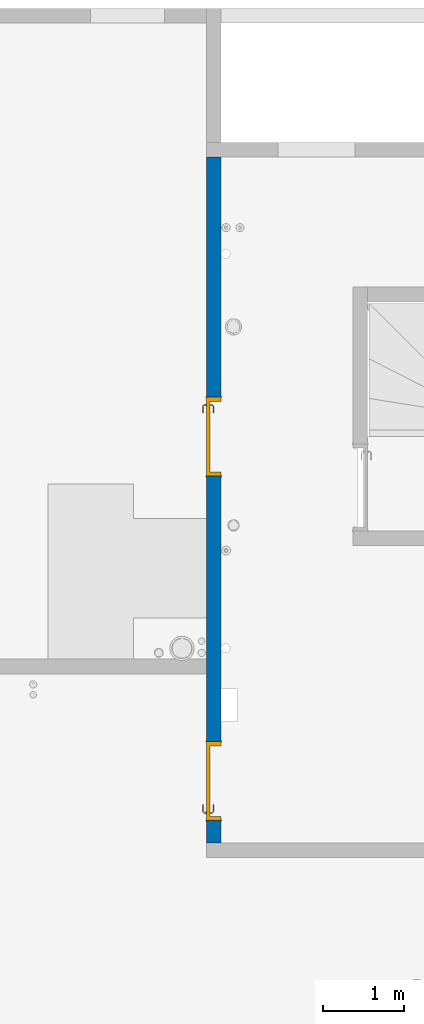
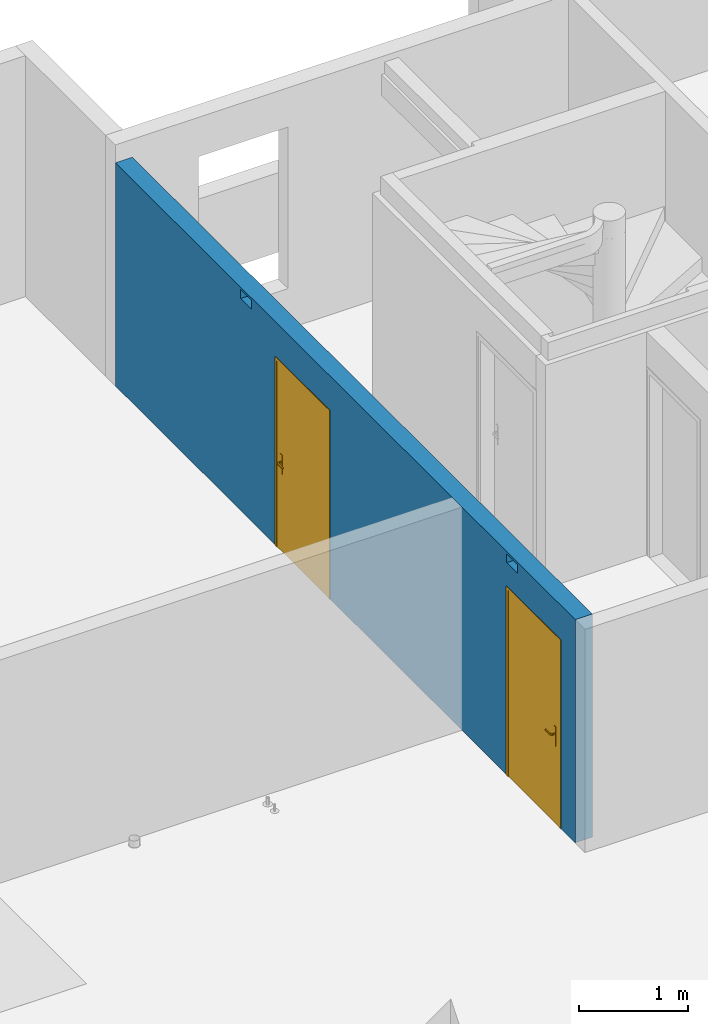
# One storey, part 12 of 24: 2 doors, 1 wall, 4 openings.
"""IFC2X3 building model written with IfcOpenShell, lengths in centimetres."""

import ifcopenshell
import ifcopenshell.guid

model = None  # the IFC model being written
_history = None  # IfcOwnerHistory: only IFC2X3 demands one
_inside = {}  # id of a spatial element -> (the spatial element, [elements in it])
_under = {}  # id of a project, library or spatial element -> (it, [spatial elements below it])
_declared = {}  # id of a project -> (the project, [libraries it declares])
_typed = {}  # id of a type object -> (the type object, [elements of that type])
_made_of = {}  # id of a material, layer set ... -> (it, [elements and type objects made of it])


def new_model(schema):
    """Start an empty IFC model of exactly this schema.

    Asked for "IFC4X3", IfcOpenShell would pick the latest addendum, in which some entities
    have other attributes; the version numbers below select the first issue.
    IFC2X3 requires an IfcOwnerHistory on every rooted entity: one is made here for all.
    """
    global model, _history
    if schema == "IFC4X3":
        model = ifcopenshell.file(schema_version=(4, 3, 0, 0))
    else:
        model = ifcopenshell.file(schema=schema)
    _inside.clear()
    _under.clear()
    _declared.clear()
    _typed.clear()
    _made_of.clear()
    _history = None
    if model.schema == "IFC2X3":
        org = make("IfcOrganization", Name="unknown")
        user = make(
            "IfcPersonAndOrganization",
            ThePerson=make("IfcPerson", FamilyName="unknown"),
            TheOrganization=org,
        )
        app = make(
            "IfcApplication",
            ApplicationDeveloper=org,
            Version="unknown",
            ApplicationFullName="unknown",
            ApplicationIdentifier="unknown",
        )
        _history = make(
            "IfcOwnerHistory",
            OwningUser=user,
            OwningApplication=app,
            ChangeAction="ADDED",
            CreationDate=0,
        )
    return model


def make(cls, **values):
    """One entity of the class cls with the attributes given. An attribute that is None is left unset."""
    return model.create_entity(
        cls, **{name: value for name, value in values.items() if value is not None}
    )


def entity(cls, *values):
    """Any entity or typed value of the class cls, its attributes in the order of the schema. None: left unset."""
    e = model.create_entity(cls)
    for i, value in enumerate(values):
        if value is not None:
            e[i] = value
    return e


def rooted(cls, **values):
    """An entity with a GlobalId (a new one), such as an element, a storey or a relation."""
    return make(cls, GlobalId=ifcopenshell.guid.new(), OwnerHistory=_history, **values)


def si_unit(unit_type, name, prefix=None):
    """IfcSIUnit, for example si_unit("LENGTHUNIT", "METRE", prefix="MILLI")."""
    return make("IfcSIUnit", UnitType=unit_type, Prefix=prefix, Name=name)


def converted_unit(unit_type, name, factor, base, dimensions=None, offset=None):
    """IfcConversionBasedUnit, such as the inch: factor (a typed value) times the base unit."""
    return make(
        "IfcConversionBasedUnit"
        if offset is None
        else "IfcConversionBasedUnitWithOffset",
        ConversionOffset=offset,
        Dimensions=None
        if dimensions is None
        else entity("IfcDimensionalExponents", *dimensions),
        UnitType=unit_type,
        Name=name,
        ConversionFactor=make(
            "IfcMeasureWithUnit", ValueComponent=factor, UnitComponent=base
        ),
    )


def derived_unit(unit_type, elements):
    """IfcDerivedUnit: a product of units, each with its exponent."""
    return make(
        "IfcDerivedUnit",
        Elements=[
            make("IfcDerivedUnitElement", Unit=unit, Exponent=power)
            for unit, power in elements
        ],
        UnitType=unit_type,
    )


def assignment(units):
    """IfcUnitAssignment: the units of a project."""
    return None if units is None else make("IfcUnitAssignment", Units=units)


def point(xyz):
    """IfcCartesianPoint."""
    return None if xyz is None else make("IfcCartesianPoint", Coordinates=xyz)


def direction(xyz):
    """IfcDirection."""
    return None if xyz is None else make("IfcDirection", DirectionRatios=xyz)


def frame(location, z_axis=None, x_axis=None):
    """IfcAxis2Placement3D, a coordinate frame: its origin and axes. An axis left out is left unset."""
    return make(
        "IfcAxis2Placement3D",
        Location=point(location),
        Axis=direction(z_axis),
        RefDirection=direction(x_axis),
    )


def frame_2d(location, x_axis=None):
    """IfcAxis2Placement2D, a coordinate frame in the plane: its origin and x axis."""
    return make(
        "IfcAxis2Placement2D", Location=point(location), RefDirection=direction(x_axis)
    )


def origin():
    """The frame at (0, 0, 0) with its axes left unset."""
    return frame((0.0, 0.0, 0.0))


def place(relative_to, where):
    """IfcLocalPlacement: puts the frame where relative to a parent placement (None: the world)."""
    return make(
        "IfcLocalPlacement", PlacementRelTo=relative_to, RelativePlacement=where
    )


def context(
    kind, dimensions, precision=None, world=None, true_north=None, identifier=None
):
    """IfcGeometricRepresentationContext, for example the 3D "Model" context."""
    return make(
        "IfcGeometricRepresentationContext",
        ContextIdentifier=identifier,
        ContextType=kind,
        CoordinateSpaceDimension=dimensions,
        Precision=precision,
        WorldCoordinateSystem=world,
        TrueNorth=true_north,
    )


def subcontext(parent, identifier, kind, view, scale=None):
    """IfcGeometricRepresentationSubContext, for example "Body" below "Model"."""
    return make(
        "IfcGeometricRepresentationSubContext",
        ContextIdentifier=identifier,
        ContextType=kind,
        ParentContext=parent,
        TargetScale=scale,
        TargetView=view,
    )


def project(units=None, contexts=None):
    """IfcProject with its units and contexts."""
    return rooted(
        "IfcProject",
        Name="project",
        RepresentationContexts=contexts,
        UnitsInContext=assignment(units),
    )


def spatial(cls, under=None, at=None, **own):
    """A site, building, storey or space (cls), placed at a placement, below another one or the project."""
    s = rooted(cls, ObjectPlacement=at, **own)
    if under is not None:
        _under.setdefault(under.id(), (under, []))[1].append(s)
    return s


def profile(cls, at=None, kind="AREA", **sizes):
    """A parametric profile (cls). Its sizes go by their IFC names, for example OverallWidth=200.0."""
    return make(cls, ProfileType=kind, Position=at, **sizes)


def rectangle(**sizes):
    """IfcRectangleProfileDef."""
    return profile("IfcRectangleProfileDef", **sizes)


def extrude(swept, where, along, depth):
    """IfcExtrudedAreaSolid: the profile swept, set in the frame where, extruded along a direction by depth."""
    return make(
        "IfcExtrudedAreaSolid",
        SweptArea=swept,
        Position=where,
        ExtrudedDirection=direction(along),
        Depth=depth,
    )


def faces_of(points, faces, orient=None, outer=None):
    """IfcFace entities. A face is a list of loops; a loop is a list of indices into points, from 0.

    orient and outer hold one flag for each loop. By default every Orientation is true, the
    first loop of a face is its IfcFaceOuterBound and the others are IfcFaceBound.
    """
    made = []
    for i, loops in enumerate(faces):
        bounds = []
        for j, loop in enumerate(loops):
            is_outer = j == 0 if outer is None else outer[i][j]
            bounds.append(
                make(
                    "IfcFaceOuterBound" if is_outer else "IfcFaceBound",
                    Bound=make("IfcPolyLoop", Polygon=[points[k] for k in loop]),
                    Orientation=True if orient is None else orient[i][j],
                )
            )
        made.append(make("IfcFace", Bounds=bounds))
    return made


def faceted_brep(points, faces, orient=None, outer=None, voids=None):
    """IfcFacetedBrep: a solid bounded by flat faces; with voids (closed shells), ...WithVoids."""
    shared = [point(p) for p in points]
    hull = make("IfcClosedShell", CfsFaces=faces_of(shared, faces, orient, outer))
    if voids is None:
        return make("IfcFacetedBrep", Outer=hull)
    return make(
        "IfcFacetedBrepWithVoids",
        Outer=hull,
        Voids=[
            make(cls, CfsFaces=faces_of(shared, fs, o, b)) for cls, fs, o, b in voids
        ],
    )


def shape(context_of_items, identifier, shape_type, items):
    """IfcShapeRepresentation: the items that make up one representation, for example the "Body"."""
    return make(
        "IfcShapeRepresentation",
        ContextOfItems=context_of_items,
        RepresentationIdentifier=identifier,
        RepresentationType=shape_type,
        Items=items,
    )


def source(mapping_origin, context_of_items, identifier, shape_type, items):
    """IfcRepresentationMap: a shape defined once, which mapped items show again and again."""
    return make(
        "IfcRepresentationMap",
        MappingOrigin=mapping_origin,
        MappedRepresentation=shape(context_of_items, identifier, shape_type, items),
    )


def transform(
    local_origin,
    x_axis=None,
    y_axis=None,
    z_axis=None,
    scale=None,
    scale2=None,
    scale3=None,
    uniform=True,
):
    """IfcCartesianTransformationOperator3D, or its non-uniform kind. x_axis, y_axis, z_axis: its Axis1, 2, 3."""
    if uniform:
        return make(
            "IfcCartesianTransformationOperator3D",
            Axis1=direction(x_axis),
            Axis2=direction(y_axis),
            LocalOrigin=point(local_origin),
            Scale=scale,
            Axis3=direction(z_axis),
        )
    return make(
        "IfcCartesianTransformationOperator3DnonUniform",
        Axis1=direction(x_axis),
        Axis2=direction(y_axis),
        LocalOrigin=point(local_origin),
        Scale=scale,
        Axis3=direction(z_axis),
        Scale2=scale2,
        Scale3=scale3,
    )


def mapped(mapping_source, mapping_target):
    """IfcMappedItem: shows the shape of a source again, moved by a transform."""
    return make(
        "IfcMappedItem", MappingSource=mapping_source, MappingTarget=mapping_target
    )


def material(Name=None, Category=None):
    """IfcMaterial."""
    return make("IfcMaterial", Name=Name, Category=Category)


def material_list(materials):
    """IfcMaterialList."""
    return make("IfcMaterialList", Materials=materials)


def layer(
    of_material, thickness, ventilated=None, Name=None, Category=None, Priority=None
):
    """IfcMaterialLayer: one layer of a wall or slab, of a material (None: an air gap)."""
    return make(
        "IfcMaterialLayer",
        Material=of_material,
        LayerThickness=thickness,
        IsVentilated=ventilated,
        Name=Name,
        Category=Category,
        Priority=Priority,
    )


def layer_set(layers, Name=None):
    """IfcMaterialLayerSet."""
    return make("IfcMaterialLayerSet", MaterialLayers=layers, LayerSetName=Name)


def layer_usage(for_layer_set, set_direction, sense, offset, extent=None):
    """IfcMaterialLayerSetUsage: how a layer set lies in its element."""
    return make(
        "IfcMaterialLayerSetUsage",
        ForLayerSet=for_layer_set,
        LayerSetDirection=set_direction,
        DirectionSense=sense,
        OffsetFromReferenceLine=offset,
        ReferenceExtent=extent,
    )


def made_of(thing, what):
    """Note that an element or type object is made of a material, layer set ...; save() writes the relation."""
    if what is not None:
        _made_of.setdefault(what.id(), (what, []))[1].append(thing)
    return thing


def type_object(cls, material=None, **own):
    """A type object (cls), such as IfcWallType, which elements share."""
    return made_of(rooted(cls, **own), material)


def type_shapes(of_type, sources):
    """Give a type object the sources (RepresentationMaps) that its elements show as mapped items."""
    of_type.RepresentationMaps = sources


def element(
    cls,
    number,
    at=None,
    inside=None,
    cuts=None,
    type_object=None,
    material=None,
    context=None,
    identifier="Body",
    shape_type=None,
    held_by="IfcProductDefinitionShape",
    body=None,
    shapes=None,
    **own,
):
    """One element of the class cls, such as IfcWall. Its Tag is "e" and its number.

    at: its placement. inside: the storey or other place that contains it. cuts: it is an
    opening in that element (IfcRelVoidsElement). A single representation is given by context,
    identifier, shape_type and body (its items); several are given by shapes. held_by: the class
    of the entity that holds the representations. save() writes the other relations.
    """
    e = rooted(cls, Tag="e%d" % number, ObjectPlacement=at, **own)
    if body is not None:
        shapes = [shape(context, identifier, shape_type, body)]
    if shapes is not None:
        e.Representation = make(held_by, Representations=shapes)
    if inside is not None:
        _inside.setdefault(inside.id(), (inside, []))[1].append(e)
    if cuts is not None:
        rooted(
            "IfcRelVoidsElement", RelatingBuildingElement=cuts, RelatedOpeningElement=e
        )
    if type_object is not None:
        _typed.setdefault(type_object.id(), (type_object, []))[1].append(e)
    return made_of(e, material)


def fill(opening, filler):
    """IfcRelFillsElement: the door or window that sits in an opening."""
    return rooted(
        "IfcRelFillsElement",
        RelatingOpeningElement=opening,
        RelatedBuildingElement=filler,
    )


def aggregate(whole, parts):
    """IfcRelAggregates: a whole, such as a stair, and the parts it consists of."""
    return rooted("IfcRelAggregates", RelatingObject=whole, RelatedObjects=parts)


def save(model, path):
    """Write the relations noted so far, then the file.

    IfcRelAggregates (storeys below a building ...), IfcRelContainedInSpatialStructure (elements
    in a storey), IfcRelDefinesByType, IfcRelAssociatesMaterial and IfcRelDeclares: one each for
    every whole, place, type object, material and project.
    """
    for whole, parts in _under.values():
        aggregate(whole, parts)
    for where, things in _inside.values():
        rooted(
            "IfcRelContainedInSpatialStructure",
            RelatedElements=things,
            RelatingStructure=where,
        )
    for kind, things in _typed.values():
        rooted("IfcRelDefinesByType", RelatedObjects=things, RelatingType=kind)
    for what, things in _made_of.values():
        rooted("IfcRelAssociatesMaterial", RelatedObjects=things, RelatingMaterial=what)
    for by, libraries in _declared.values():
        rooted("IfcRelDeclares", RelatingContext=by, RelatedDefinitions=libraries)
    model.write(path)


model = new_model("IFC2X3")

# Units and contexts
model_context = context("Model", 3, precision=0.001, world=origin(), true_north=direction((6.12303176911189e-17, 1.0)))
body_context = subcontext(model_context, "Body", "Model", "MODEL_VIEW")
ifc_project = project(units=[si_unit("LENGTHUNIT", "METRE", prefix="CENTI"), si_unit("AREAUNIT", "SQUARE_METRE"), si_unit("VOLUMEUNIT", "CUBIC_METRE"), converted_unit("PLANEANGLEUNIT", "DEGREE", entity("IfcRatioMeasure", 0.0174532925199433), si_unit("PLANEANGLEUNIT", "RADIAN"), dimensions=[0, 0, 0, 0, 0, 0, 0]), si_unit("MASSUNIT", "GRAM", prefix="KILO"), derived_unit("MASSDENSITYUNIT", [(si_unit("MASSUNIT", "GRAM", prefix="KILO"), 1), (si_unit("LENGTHUNIT", "METRE"), -3)]), si_unit("TIMEUNIT", "SECOND"), si_unit("FREQUENCYUNIT", "HERTZ"), si_unit("THERMODYNAMICTEMPERATUREUNIT", "DEGREE_CELSIUS"), derived_unit("THERMALTRANSMITTANCEUNIT", [(si_unit("MASSUNIT", "GRAM", prefix="KILO"), 1), (si_unit("THERMODYNAMICTEMPERATUREUNIT", "KELVIN"), -1), (si_unit("TIMEUNIT", "SECOND"), -3)]), derived_unit("VOLUMETRICFLOWRATEUNIT", [(si_unit("LENGTHUNIT", "METRE"), 3), (si_unit("TIMEUNIT", "SECOND"), -1)]), si_unit("ELECTRICCURRENTUNIT", "AMPERE"), si_unit("ELECTRICVOLTAGEUNIT", "VOLT"), si_unit("POWERUNIT", "WATT"), si_unit("FORCEUNIT", "NEWTON"), si_unit("ILLUMINANCEUNIT", "LUX"), si_unit("LUMINOUSFLUXUNIT", "LUMEN"), si_unit("LUMINOUSINTENSITYUNIT", "CANDELA"), derived_unit("USERDEFINED", [(si_unit("MASSUNIT", "GRAM", prefix="KILO"), -1), (si_unit("LENGTHUNIT", "METRE"), -2), (si_unit("TIMEUNIT", "SECOND"), 3), (si_unit("LUMINOUSFLUXUNIT", "LUMEN"), 1)]), derived_unit("LINEARVELOCITYUNIT", [(si_unit("LENGTHUNIT", "METRE"), 1), (si_unit("TIMEUNIT", "SECOND"), -1)]), si_unit("PRESSUREUNIT", "PASCAL"), derived_unit("USERDEFINED", [(si_unit("LENGTHUNIT", "METRE"), -2), (si_unit("MASSUNIT", "GRAM", prefix="KILO"), 1), (si_unit("TIMEUNIT", "SECOND"), -2)])], contexts=[model_context])

# Site, building, storey
site_placement = place(None, origin())
site = spatial("IfcSite", under=ifc_project, at=site_placement, Name="Default", CompositionType="ELEMENT")
building_placement = place(site_placement, origin())
building = spatial("IfcBuilding", under=site, at=building_placement, Name="CAGE 03", CompositionType="ELEMENT")
storey_placement = place(building_placement, frame((0.0, 0.0, 880.0)))
storey = spatial("IfcBuildingStorey", under=building, at=storey_placement, Name="R+3", CompositionType="ELEMENT", Elevation=880.0)

# Wall, openings, doors
ifc_material_1 = material(Name="Béton, C25/30")
ifc_layer = layer(ifc_material_1, 18.0)
ifc_layer_set = layer_set([ifc_layer], Name="Mur de base:Voile BA 18")
ifc_layer_usage = layer_usage(ifc_layer_set, "AXIS2", "POSITIVE", -9.0)
wall_type = type_object("IfcWallType", Name="Mur de base:Voile BA 18", PredefinedType="STANDARD", material=ifc_layer_set)
wall_placement = place(storey_placement, frame((10019.3658201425, 4266.66066607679, 0.0), z_axis=(0.0, 0.0, 1.0), x_axis=(0.0, 1.0, 0.0)))
wall = element("IfcWallStandardCase", 1, at=wall_placement, inside=storey, type_object=wall_type, material=ifc_layer_usage, Name="Mur de base:Voile BA 18", ObjectType="Mur de base:Voile BA 18", context=body_context, shape_type="SweptSolid", body=[
    extrude(rectangle(XDim=844.0, YDim=17.9999999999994, at=frame_2d((422.0, 2.1316282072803e-14), x_axis=(-1.0, 0.0))), origin(), (0.0, 0.0, 1.0), 250.0),
])
opening_1_placement = place(wall_placement, origin())
element("IfcOpeningElement", 2, at=opening_1_placement, cuts=wall, Name="Mur de base:Voile BA 18", ObjectType="Opening", context=body_context, shape_type="SweptSolid", body=[
    extrude(rectangle(XDim=9.99999999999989, YDim=19.9999999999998, at=frame_2d((0.0, 4.33431068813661e-13), x_axis=(1.0, 0.0))), frame((604.0, -9.0, 242.5), z_axis=(0.0, 1.0, 0.0), x_axis=(0.0, 0.0, -1.0)), (0.0, 0.0, 1.0), 17.9999999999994),
])
opening_2_placement = place(wall_placement, origin())
element("IfcOpeningElement", 3, at=opening_2_placement, cuts=wall, Name="Mur de base:Voile BA 18", ObjectType="Opening", context=body_context, shape_type="SweptSolid", body=[
    extrude(rectangle(XDim=9.99999999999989, YDim=19.9999999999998, at=frame_2d((0.0, -4.33431068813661e-13), x_axis=(1.0, 0.0))), frame((116.0, -9.0, 242.5), z_axis=(0.0, 1.0, 0.0), x_axis=(0.0, 0.0, -1.0)), (0.0, 0.0, 1.0), 17.9999999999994),
])
opening_3_placement = place(wall_placement, frame((451.499999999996, -9.0, 0.0)))
opening_3 = element("IfcOpeningElement", 4, at=opening_3_placement, cuts=wall, Name="Int. Simple:HB93:1", ObjectType="Opening", context=body_context, shape_type="SweptSolid", body=[
    extrude(rectangle(XDim=210.000000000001, YDim=96.9999999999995, at=frame_2d((105.000000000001, 48.4999999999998), x_axis=(1.0, 0.0))), frame((0.0, 0.0, 0.0), z_axis=(0.0, 1.0, 0.0), x_axis=(0.0, 0.0, 1.0)), (0.0, 0.0, 1.0), 18.0),
])
opening_4_placement = place(wall_placement, frame((27.4999999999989, -9.0, 0.0)))
opening_4 = element("IfcOpeningElement", 5, at=opening_4_placement, cuts=wall, Name="Int. Simple:HB93:1", ObjectType="Opening", context=body_context, shape_type="SweptSolid", body=[
    extrude(rectangle(XDim=210.000000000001, YDim=96.9999999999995, at=frame_2d((105.000000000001, 48.4999999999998), x_axis=(1.0, 0.0))), frame((0.0, 0.0, 0.0), z_axis=(0.0, 1.0, 0.0), x_axis=(0.0, 0.0, 1.0)), (0.0, 0.0, 1.0), 18.0),
])
ifc_material_2 = material(Name="Finition Peinture - Blanc satiné")
ifc_material_3 = material(Name="Bois - Panneau de porte")
ifc_material_4 = material(Name="Bois - Cadre de porte")
ifc_material_list_1 = material_list([ifc_material_2, ifc_material_3, ifc_material_4])
ifc_material_list_2 = material_list([ifc_material_2, ifc_material_3, ifc_material_4])
door_style_1 = type_object("IfcDoorStyle", Name="HB93", ConstructionType="NOTDEFINED", OperationType="SINGLE_SWING_RIGHT", ParameterTakesPrecedence=False, Sizeable=False, material=ifc_material_list_2)
shared_shape_1 = source(origin(), body_context, "Body", "Brep", [
    faceted_brep([(96.5000000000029, -0.500000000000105, 87.0), (96.5000000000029, -0.500000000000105, 108.0), (95.535276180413, -0.500000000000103, 108.399601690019), (94.5000000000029, -0.500000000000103, 108.535898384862), (93.4647238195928, -0.500000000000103, 108.399601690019), (92.5000000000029, -0.500000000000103, 108.0), (92.5000000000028, -0.500000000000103, 87.0), (93.4647238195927, -0.500000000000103, 86.6003983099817), (94.5000000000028, -0.500000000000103, 86.464101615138), (95.5352761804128, -0.500000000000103, 86.6003983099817), (96.5000000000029, 0.0, 108.0), (96.5000000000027, 0.0, 87.0), (95.5352761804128, 0.0, 86.6003983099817), (94.5000000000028, 0.0, 86.464101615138), (93.4647238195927, 0.0, 86.6003983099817), (92.5000000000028, 0.0, 87.0), (92.5000000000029, 0.0, 108.0), (93.4647238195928, 0.0, 108.399601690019), (94.5000000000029, 0.0, 108.535898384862), (95.535276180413, 0.0, 108.399601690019)], [[[0, 1, 2, 3, 4, 5, 6, 7, 8, 9]], [[10, 11, 12, 13, 14, 15, 16, 17, 18, 19]], [[9, 12, 11, 0]], [[8, 13, 12, 9]], [[7, 14, 13, 8]], [[7, 6, 15, 14]], [[15, 6, 5, 16]], [[4, 17, 16, 5]], [[3, 18, 17, 4]], [[2, 19, 18, 3]], [[2, 1, 10, 19]], [[11, 10, 1, 0]]]),
    faceted_brep([(96.5000000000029, 4.0, 87.0), (96.5000000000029, 4.0, 108.0), (95.535276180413, 4.0, 108.399601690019), (94.5000000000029, 4.0, 108.535898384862), (93.4647238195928, 4.0, 108.399601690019), (92.500000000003, 4.0, 108.0), (92.5000000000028, 4.0, 87.0), (93.4647238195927, 4.0, 86.6003983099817), (94.5000000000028, 4.0, 86.464101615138), (95.5352761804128, 4.0, 86.6003983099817), (94.5000000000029, 4.49999999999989, 108.535898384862), (95.535276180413, 4.49999999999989, 108.399601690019), (96.5000000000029, 4.49999999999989, 108.0), (96.5000000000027, 4.49999999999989, 87.0), (95.5352761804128, 4.49999999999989, 86.6003983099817), (94.5000000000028, 4.49999999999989, 86.464101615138), (93.4647238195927, 4.49999999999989, 86.6003983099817), (92.5000000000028, 4.4999999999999, 87.0), (92.5000000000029, 4.4999999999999, 108.0), (93.4647238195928, 4.49999999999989, 108.399601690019)], [[[0, 1, 2, 3, 4, 5, 6, 7, 8, 9]], [[10, 11, 12, 13, 14, 15, 16, 17, 18, 19]], [[4, 19, 18, 5]], [[3, 10, 19, 4]], [[2, 11, 10, 3]], [[2, 1, 12, 11]], [[13, 12, 1, 0]], [[9, 14, 13, 0]], [[8, 15, 14, 9]], [[7, 16, 15, 8]], [[7, 6, 17, 16]], [[17, 6, 5, 18]]]),
    faceted_brep([(94.2974701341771, -0.500000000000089, 100.778044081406), (94.7025298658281, -0.500000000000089, 100.778044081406), (95.100000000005, -0.500000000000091, 100.699999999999), (95.100000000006, -0.500000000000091, 99.2999999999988), (94.7025298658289, -0.500000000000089, 99.221955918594), (94.297470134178, -0.500000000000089, 99.2219559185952), (93.9000000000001, -0.500000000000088, 99.3000000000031), (93.9000000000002, -0.500000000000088, 100.7), (94.7025298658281, -3.10045754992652, 100.778044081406), (95.1000000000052, -3.26509507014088, 100.7), (94.2974701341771, -2.93267631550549, 100.778044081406), (92.9298602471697, -4.30028620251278, 100.778044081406), (93.0976414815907, -4.70534593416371, 100.778044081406), (93.9000000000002, -2.76803879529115, 100.7), (93.9000000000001, -2.76803879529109, 99.3000000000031), (94.297470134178, -2.93267631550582, 99.2219559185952), (94.7025298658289, -3.10045754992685, 99.221955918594), (93.0976414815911, -4.70534593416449, 99.221955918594), (92.9298602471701, -4.30028620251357, 99.2219559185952), (95.100000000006, -3.26509507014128, 99.2999999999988), (93.2622790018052, -5.1028160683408, 100.7), (92.7652227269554, -3.90281606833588, 100.7), (92.7652227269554, -3.90281606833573, 99.3000000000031), (93.2622790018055, -5.10281606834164, 99.2999999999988), (84.4981359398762, -5.10281606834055, 100.7), (84.4981359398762, -4.70534593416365, 100.778044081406), (84.4981359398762, -4.30028620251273, 100.778044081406), (84.4981359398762, -3.90281606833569, 100.699999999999), (84.4981359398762, -3.90281606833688, 99.3000000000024), (84.4981359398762, -4.30028620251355, 99.2219559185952), (84.4981359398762, -4.70534593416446, 99.221955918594), (84.4981359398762, -5.10281606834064, 99.2999999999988), (88.7139980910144, -4.5028160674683, 100.78786867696), (89.2692302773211, -5.1028160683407, 100.7), (88.6316793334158, -3.90281606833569, 100.7), (88.631679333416, -3.90281606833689, 99.3000000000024), (88.7139981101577, -4.50281607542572, 99.2121313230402), (89.2692310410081, -5.10281606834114, 99.2999999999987)], [[[0, 1, 2, 3, 4, 5, 6, 7]], [[2, 1, 8, 9]], [[1, 0, 10, 11, 12, 8]], [[0, 7, 13, 10]], [[14, 13, 7, 6]], [[5, 15, 14, 6]], [[5, 4, 16, 17, 18, 15]], [[3, 19, 16, 4]], [[9, 19, 3, 2]], [[9, 8, 12, 20]], [[10, 13, 21, 11]], [[22, 21, 13, 14]], [[14, 15, 18, 22]], [[16, 19, 23, 17]], [[20, 23, 19, 9]], [[24, 25, 26, 27, 28, 29, 30, 31]], [[32, 25, 33]], [[33, 25, 24]], [[33, 20, 12]], [[11, 34, 32]], [[34, 11, 21]], [[27, 26, 34]], [[32, 26, 25]], [[32, 34, 26]], [[32, 33, 12]], [[11, 32, 12]], [[21, 22, 35, 28, 27, 34]], [[36, 29, 35]], [[30, 36, 37]], [[18, 35, 22]], [[29, 28, 35]], [[30, 37, 31]], [[37, 17, 23]], [[36, 17, 37]], [[36, 18, 17]], [[36, 35, 18]], [[29, 36, 30]], [[23, 20, 33, 24, 31, 37]]]),
    faceted_brep([(94.2974701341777, 4.49999999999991, 99.2219559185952), (94.7025298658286, 4.49999999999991, 99.221955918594), (95.1000000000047, 4.49999999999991, 99.2999999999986), (95.1000000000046, 4.49999999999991, 100.7), (94.7025298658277, 4.49999999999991, 100.778044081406), (94.2974701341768, 4.49999999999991, 100.778044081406), (93.8999999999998, 4.49999999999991, 100.7), (93.900000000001, 4.49999999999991, 99.3000000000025), (93.8999999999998, 6.7485204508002, 100.7), (93.8999999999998, 6.74852045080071, 99.3000000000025), (94.2974701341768, 6.91315797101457, 100.778044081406), (94.7025298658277, 7.0809392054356, 100.778044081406), (93.0838906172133, 8.69957845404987, 100.778044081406), (92.9161093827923, 8.29451872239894, 100.778044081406), (95.1000000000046, 7.24557672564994, 100.7), (95.1000000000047, 7.24557672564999, 99.2999999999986), (94.7025298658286, 7.08093920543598, 99.221955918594), (94.2974701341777, 6.91315797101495, 99.2219559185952), (92.9161093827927, 8.29451872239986, 99.2219559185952), (93.0838906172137, 8.69957845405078, 99.221955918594), (92.751471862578, 7.89704858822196, 100.7), (92.7514718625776, 7.89704858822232, 99.3000000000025), (93.2485281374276, 9.09704858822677, 100.7), (93.2485281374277, 9.09704858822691, 99.2999999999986), (84.4954216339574, 8.29451872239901, 100.778044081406), (84.4954216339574, 8.69957845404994, 100.778044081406), (84.4954216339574, 9.09704858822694, 100.7), (84.4954216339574, 9.09704858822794, 99.2999999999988), (84.4954216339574, 8.6995784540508, 99.221955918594), (84.4954216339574, 8.29451872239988, 99.2219559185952), (84.4954216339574, 7.89704858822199, 99.3000000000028), (84.4954216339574, 7.89704858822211, 100.7), (88.6234467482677, 7.89704858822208, 100.7), (88.6234479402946, 7.89704858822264, 99.3000000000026), (88.7057655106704, 8.49704858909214, 100.78786867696), (89.255479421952, 9.09704858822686, 100.7), (89.2554795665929, 9.09704858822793, 99.2999999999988), (88.7057654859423, 8.49704858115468, 99.2121313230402)], [[[0, 1, 2, 3, 4, 5, 6, 7]], [[8, 9, 7, 6]], [[5, 10, 8, 6]], [[5, 4, 11, 12, 13, 10]], [[3, 14, 11, 4]], [[14, 3, 2, 15]], [[2, 1, 16, 15]], [[1, 0, 17, 18, 19, 16]], [[0, 7, 9, 17]], [[20, 21, 9, 8]], [[8, 10, 13, 20]], [[14, 22, 12, 11]], [[23, 22, 14, 15]], [[15, 16, 19, 23]], [[17, 9, 21, 18]], [[24, 25, 26, 27, 28, 29, 30, 31]], [[21, 20, 32, 31, 30, 33]], [[34, 24, 32]], [[25, 34, 35]], [[13, 32, 20]], [[24, 31, 32]], [[25, 35, 26]], [[35, 12, 22]], [[34, 12, 35]], [[34, 13, 12]], [[34, 32, 13]], [[24, 34, 25]], [[22, 23, 36, 27, 26, 35]], [[37, 28, 36]], [[36, 28, 27]], [[36, 23, 19]], [[18, 33, 37]], [[33, 18, 21]], [[30, 29, 33]], [[37, 29, 28]], [[37, 33, 29]], [[37, 36, 19]], [[18, 37, 19]]]),
    faceted_brep([(100.500000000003, 4.0, 206.5), (100.500000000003, 4.0, 0.0), (10.5000000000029, 4.0, 0.0), (10.5000000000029, 4.0, 206.5), (100.500000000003, 0.0, 206.5), (10.5000000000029, 0.0, 206.5), (10.5000000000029, 0.0, 0.0), (100.500000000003, 0.0, 0.0)], [[[0, 1, 2, 3]], [[4, 5, 6, 7]], [[3, 5, 4, 0]], [[2, 6, 5, 3]], [[1, 7, 6, 2]], [[0, 4, 7, 1]]]),
    faceted_brep([(104.0, 0.0, 0.0), (100.500000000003, 0.0, 0.0), (100.500000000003, 4.0, 0.0), (99.0, 4.0, 0.0), (99.0, 18.0, 0.0), (104.0, 18.0, 0.0), (104.0, 18.0, 210.0), (104.0, 0.0, 210.0), (99.0, 18.0, 205.0), (12.0, 18.0, 205.0), (12.0, 18.0, 0.0), (7.0, 18.0, 0.0), (7.0, 18.0, 210.0), (99.0, 4.0, 205.0), (100.500000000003, 4.0, 206.5), (10.5000000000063, 4.0, 206.5), (10.5000000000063, 4.0, 0.0), (12.0, 4.0, 0.0), (12.0, 4.0, 205.0), (100.500000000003, 0.0, 206.5), (7.0, 0.0, 210.0), (7.0, 0.0, 0.0), (10.5000000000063, 0.0, 0.0), (10.5000000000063, 0.0, 206.5)], [[[0, 1, 2, 3, 4, 5]], [[5, 6, 7, 0]], [[4, 8, 9, 10, 11, 12, 6, 5]], [[3, 13, 8, 4]], [[2, 14, 15, 16, 17, 18, 13, 3]], [[1, 19, 14, 2]], [[0, 7, 20, 21, 22, 23, 19, 1]], [[12, 11, 21, 20]], [[21, 11, 10, 17, 16, 22]], [[18, 17, 10, 9]], [[23, 22, 16, 15]], [[6, 12, 20, 7]], [[13, 18, 9, 8]], [[19, 23, 15, 14]]]),
    faceted_brep([(102.500000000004, 18.0, 0.0), (102.500000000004, 18.5000000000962, 0.0), (105.500000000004, 18.5000000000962, 0.0), (105.500000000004, 18.0, 0.0), (105.500000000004, 18.0, 211.500000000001), (5.50000000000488, 18.0, 211.500000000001), (5.50000000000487, 18.0, 0.0), (8.50000000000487, 18.0, 0.0), (8.50000000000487, 18.0, 208.500000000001), (102.500000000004, 18.0, 208.500000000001), (105.500000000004, 18.5000000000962, 211.500000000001), (102.500000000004, 18.5000000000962, 208.500000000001), (8.50000000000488, 18.5000000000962, 208.500000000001), (8.50000000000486, 18.5000000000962, 0.0), (5.50000000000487, 18.5000000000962, 0.0), (5.50000000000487, 18.5000000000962, 211.500000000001)], [[[0, 1, 2, 3]], [[3, 4, 5, 6, 7, 8, 9, 0]], [[2, 10, 4, 3]], [[1, 11, 12, 13, 14, 15, 10, 2]], [[0, 9, 11, 1]], [[7, 6, 14, 13]], [[8, 7, 13, 12]], [[15, 14, 6, 5]], [[10, 15, 5, 4]], [[9, 8, 12, 11]]]),
    faceted_brep([(105.500000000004, -0.5, 0.0), (105.500000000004, -0.5, 211.500000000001), (5.50000000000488, -0.5, 211.500000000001), (5.50000000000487, -0.5, 0.0), (8.50000000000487, -0.5, 0.0), (8.50000000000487, -0.5, 208.500000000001), (102.500000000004, -0.5, 208.500000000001), (102.500000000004, -0.5, 0.0), (105.500000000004, 0.0, 0.0), (105.500000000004, 0.0, 211.500000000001), (102.500000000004, 0.0, 0.0), (102.500000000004, 0.0, 208.500000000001), (8.50000000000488, 0.0, 208.500000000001), (8.50000000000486, 0.0, 0.0), (5.50000000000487, 0.0, 0.0), (5.50000000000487, 0.0, 211.500000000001)], [[[0, 1, 2, 3, 4, 5, 6, 7]], [[8, 9, 1, 0]], [[10, 11, 12, 13, 14, 15, 9, 8]], [[7, 6, 11, 10]], [[5, 4, 13, 12]], [[15, 14, 3, 2]], [[9, 15, 2, 1]], [[6, 5, 12, 11]], [[4, 3, 14, 13]], [[7, 10, 8, 0]]]),
])
type_shapes(door_style_1, [shared_shape_1])
door_1_placement = place(opening_4_placement, frame((104.0, 18.0, 0.0), z_axis=(0.0, 0.0, 1.0), x_axis=(-1.0, 0.0, 0.0)))
door_1 = element("IfcDoor", 6, at=door_1_placement, inside=storey, type_object=door_style_1, material=ifc_material_list_1, Name="Int. Simple:HB93", ObjectType="HB93", OverallHeight=210.000000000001, OverallWidth=96.9999999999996, context=body_context, shape_type="MappedRepresentation", body=[
    mapped(shared_shape_1, transform((0.0, 0.0, 0.0), scale=1.0)),
])
fill(opening_4, door_1)
ifc_material_list_3 = material_list([ifc_material_2, ifc_material_3, ifc_material_4])
ifc_material_list_4 = material_list([ifc_material_2, ifc_material_3, ifc_material_4])
door_style_2 = type_object("IfcDoorStyle", Name="HB93", ConstructionType="NOTDEFINED", OperationType="SINGLE_SWING_LEFT", ParameterTakesPrecedence=False, Sizeable=False, material=ifc_material_list_4)
shared_shape_2 = source(origin(), body_context, "Body", "Brep", [
    faceted_brep([(10.5352761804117, -0.500000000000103, 86.6003983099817), (11.5000000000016, -0.500000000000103, 87.0), (11.5000000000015, -0.500000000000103, 108.0), (10.5352761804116, -0.500000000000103, 108.399601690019), (9.50000000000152, -0.500000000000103, 108.535898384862), (8.46472381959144, -0.500000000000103, 108.399601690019), (7.50000000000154, -0.500000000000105, 108.0), (7.50000000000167, -0.500000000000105, 87.0), (8.46472381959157, -0.500000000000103, 86.6003983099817), (9.50000000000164, -0.500000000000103, 86.464101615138), (10.5352761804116, 0.0, 108.399601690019), (11.5000000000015, 0.0, 108.0), (11.5000000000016, 0.0, 87.0), (10.5352761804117, 0.0, 86.6003983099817), (9.50000000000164, 0.0, 86.464101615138), (8.46472381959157, 0.0, 86.6003983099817), (7.50000000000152, 0.0, 87.0), (7.50000000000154, 0.0, 108.0), (8.46472381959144, 0.0, 108.399601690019), (9.50000000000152, 0.0, 108.535898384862)], [[[0, 1, 2, 3, 4, 5, 6, 7, 8, 9]], [[10, 11, 12, 13, 14, 15, 16, 17, 18, 19]], [[16, 15, 8, 7]], [[8, 15, 14, 9]], [[14, 13, 0, 9]], [[13, 12, 1, 0]], [[2, 1, 12, 11]], [[11, 10, 3, 2]], [[3, 10, 19, 4]], [[19, 18, 5, 4]], [[18, 17, 6, 5]], [[7, 6, 17, 16]]]),
    faceted_brep([(10.5352761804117, 4.0, 86.6003983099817), (11.5000000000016, 4.0, 87.0), (11.5000000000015, 4.0, 108.0), (10.5352761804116, 4.0, 108.399601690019), (9.50000000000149, 4.0, 108.535898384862), (8.46472381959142, 4.0, 108.399601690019), (7.50000000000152, 4.0, 108.0), (7.50000000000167, 4.0, 87.0), (8.46472381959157, 4.0, 86.6003983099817), (9.50000000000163, 4.0, 86.464101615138), (10.5352761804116, 4.49999999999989, 108.399601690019), (11.5000000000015, 4.4999999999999, 108.0), (11.5000000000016, 4.4999999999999, 87.0), (10.5352761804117, 4.49999999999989, 86.6003983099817), (9.50000000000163, 4.49999999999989, 86.464101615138), (8.46472381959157, 4.49999999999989, 86.6003983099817), (7.50000000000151, 4.49999999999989, 87.0), (7.50000000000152, 4.49999999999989, 108.0), (8.46472381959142, 4.49999999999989, 108.399601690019), (9.50000000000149, 4.49999999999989, 108.535898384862)], [[[0, 1, 2, 3, 4, 5, 6, 7, 8, 9]], [[10, 11, 12, 13, 14, 15, 16, 17, 18, 19]], [[11, 10, 3, 2]], [[3, 10, 19, 4]], [[19, 18, 5, 4]], [[18, 17, 6, 5]], [[7, 6, 17, 16]], [[16, 15, 8, 7]], [[8, 15, 14, 9]], [[14, 13, 0, 9]], [[13, 12, 1, 0]], [[2, 1, 12, 11]]]),
    faceted_brep([(9.29747013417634, -0.500000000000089, 100.778044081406), (9.70252986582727, -0.500000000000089, 100.778044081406), (10.1000000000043, -0.500000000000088, 100.699999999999), (10.1000000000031, -0.500000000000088, 99.3000000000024), (9.70252986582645, -0.500000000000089, 99.2219559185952), (9.29747013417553, -0.500000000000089, 99.221955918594), (8.89999999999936, -0.500000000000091, 99.2999999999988), (8.89999999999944, -0.500000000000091, 100.7), (8.89999999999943, -3.26509507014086, 100.7), (9.29747013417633, -3.10045754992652, 100.778044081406), (10.9023585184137, -4.70534593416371, 100.778044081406), (11.0701397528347, -4.30028620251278, 100.778044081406), (9.70252986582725, -2.93267631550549, 100.778044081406), (10.1000000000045, -2.76803879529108, 100.7), (10.1000000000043, -2.76803879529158, 99.3000000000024), (9.70252986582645, -2.93267631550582, 99.2219559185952), (11.0701397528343, -4.30028620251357, 99.2219559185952), (10.9023585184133, -4.70534593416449, 99.221955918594), (9.29747013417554, -3.10045754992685, 99.221955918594), (8.89999999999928, -3.26509507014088, 99.2999999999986), (10.7377209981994, -5.1028160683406, 100.7), (11.2347772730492, -3.90281606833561, 100.7), (11.2347772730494, -3.90281606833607, 99.3000000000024), (10.7377209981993, -5.10281606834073, 99.2999999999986), (19.5018640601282, -5.1028160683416, 99.2999999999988), (19.5018640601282, -4.70534593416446, 99.221955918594), (19.5018640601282, -4.30028620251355, 99.2219559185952), (19.5018640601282, -3.90281606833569, 99.3000000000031), (19.5018640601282, -3.90281606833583, 100.7), (19.5018640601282, -4.30028620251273, 100.778044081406), (19.5018640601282, -4.70534593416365, 100.778044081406), (19.5018640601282, -5.10281606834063, 100.699999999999), (14.7307697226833, -5.10281606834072, 100.7), (15.28600190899, -4.5028160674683, 100.78786867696), (15.3683206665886, -3.9028160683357, 100.7), (15.3683206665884, -3.90281606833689, 99.3000000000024), (15.2860018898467, -4.50281607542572, 99.2121313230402), (14.7307700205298, -5.10281606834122, 99.2999999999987)], [[[0, 1, 2, 3, 4, 5, 6, 7]], [[8, 9, 0, 7]], [[9, 10, 11, 12, 1, 0]], [[12, 13, 2, 1]], [[3, 2, 13, 14]], [[14, 15, 4, 3]], [[15, 16, 17, 18, 5, 4]], [[18, 19, 6, 5]], [[7, 6, 19, 8]], [[20, 10, 9, 8]], [[11, 21, 13, 12]], [[14, 13, 21, 22]], [[22, 16, 15, 14]], [[17, 23, 19, 18]], [[8, 19, 23, 20]], [[24, 25, 26, 27, 28, 29, 30, 31]], [[32, 30, 33]], [[31, 30, 32]], [[10, 20, 32]], [[33, 34, 11]], [[21, 11, 34]], [[34, 29, 28]], [[30, 29, 33]], [[29, 34, 33]], [[10, 32, 33]], [[10, 33, 11]], [[22, 21, 34, 28, 27, 35]], [[35, 26, 36]], [[37, 36, 25]], [[22, 35, 16]], [[35, 27, 26]], [[24, 37, 25]], [[23, 17, 37]], [[37, 17, 36]], [[17, 16, 36]], [[16, 35, 36]], [[25, 36, 26]], [[20, 23, 37, 24, 31, 32]]]),
    faceted_brep([(9.29747013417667, 4.49999999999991, 100.778044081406), (8.89999999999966, 4.49999999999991, 100.7), (8.89999999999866, 4.49999999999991, 99.2999999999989), (9.2974701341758, 4.49999999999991, 99.221955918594), (9.70252986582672, 4.49999999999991, 99.2219559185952), (10.1000000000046, 4.49999999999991, 99.3000000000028), (10.1000000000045, 4.49999999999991, 100.7), (9.70252986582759, 4.49999999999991, 100.778044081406), (10.1000000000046, 6.7485204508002, 99.3000000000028), (10.1000000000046, 6.74852045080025, 100.7), (9.70252986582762, 6.91315797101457, 100.778044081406), (11.0838906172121, 8.29451872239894, 100.778044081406), (10.9161093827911, 8.69957845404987, 100.778044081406), (9.29747013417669, 7.0809392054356, 100.778044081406), (8.89999999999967, 7.24557672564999, 100.7), (8.89999999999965, 7.24557672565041, 99.2999999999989), (9.29747013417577, 7.08093920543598, 99.221955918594), (10.9161093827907, 8.69957845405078, 99.221955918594), (11.0838906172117, 8.29451872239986, 99.2219559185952), (9.7025298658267, 6.91315797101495, 99.2219559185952), (11.2485281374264, 7.89704858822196, 99.3000000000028), (11.2485281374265, 7.89704858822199, 100.7), (10.7514718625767, 9.0970485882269, 100.7), (10.751471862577, 9.0970485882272, 99.2999999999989), (19.504578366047, 7.89704858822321, 99.3000000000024), (19.504578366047, 8.29451872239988, 99.2219559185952), (19.504578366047, 8.6995784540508, 99.221955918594), (19.504578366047, 9.09704858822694, 99.2999999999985), (19.504578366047, 9.09704858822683, 100.7), (19.504578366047, 8.69957845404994, 100.778044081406), (19.504578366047, 8.29451872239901, 100.778044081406), (19.504578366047, 7.89704858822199, 100.7), (15.3765520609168, 7.89704858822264, 99.3000000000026), (15.3765532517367, 7.89704858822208, 100.7), (15.294234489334, 8.49704858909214, 100.78786867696), (14.7445205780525, 9.09704858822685, 100.7), (14.7445204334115, 9.09704858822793, 99.2999999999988), (15.2942345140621, 8.49704858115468, 99.2121313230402)], [[[0, 1, 2, 3, 4, 5, 6, 7]], [[6, 5, 8, 9]], [[9, 10, 7, 6]], [[10, 11, 12, 13, 0, 7]], [[13, 14, 1, 0]], [[2, 1, 14, 15]], [[15, 16, 3, 2]], [[16, 17, 18, 19, 4, 3]], [[19, 8, 5, 4]], [[9, 8, 20, 21]], [[21, 11, 10, 9]], [[12, 22, 14, 13]], [[15, 14, 22, 23]], [[23, 17, 16, 15]], [[18, 20, 8, 19]], [[24, 25, 26, 27, 28, 29, 30, 31]], [[21, 20, 32, 24, 31, 33]], [[33, 30, 34]], [[35, 34, 29]], [[21, 33, 11]], [[33, 31, 30]], [[28, 35, 29]], [[22, 12, 35]], [[35, 12, 34]], [[12, 11, 34]], [[11, 33, 34]], [[29, 34, 30]], [[22, 35, 28, 27, 36, 23]], [[36, 26, 37]], [[27, 26, 36]], [[17, 23, 36]], [[37, 32, 18]], [[20, 18, 32]], [[32, 25, 24]], [[26, 25, 37]], [[25, 32, 37]], [[17, 36, 37]], [[17, 37, 18]]]),
    faceted_brep([(3.50000000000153, 4.0, 206.5), (93.5000000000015, 4.0, 206.5), (93.5000000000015, 4.0, 0.0), (3.50000000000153, 4.0, 0.0), (3.50000000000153, 0.0, 206.5), (3.50000000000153, 0.0, 0.0), (93.5000000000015, 0.0, 0.0), (93.5000000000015, 0.0, 206.5)], [[[0, 1, 2, 3]], [[4, 5, 6, 7]], [[1, 0, 4, 7]], [[2, 1, 7, 6]], [[3, 2, 6, 5]], [[0, 3, 5, 4]]]),
    faceted_brep([(0.0, 0.0, 0.0), (0.0, 18.0, 0.0), (5.0, 18.0, 0.0), (5.0, 4.0, 0.0), (3.50000000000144, 4.0, 0.0), (3.50000000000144, 0.0, 0.0), (0.0, 0.0, 210.0), (0.0, 18.0, 210.0), (97.0, 18.0, 210.0), (97.0, 18.0, 0.0), (92.0, 18.0, 0.0), (92.0, 18.0, 205.0), (5.0, 18.0, 205.0), (5.0, 4.0, 205.0), (92.0, 4.0, 205.0), (92.0, 4.0, 0.0), (93.4999999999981, 4.0, 0.0), (93.4999999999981, 4.0, 206.5), (3.50000000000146, 4.0, 206.5), (3.50000000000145, 0.0, 206.5), (93.4999999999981, 0.0, 206.5), (93.4999999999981, 0.0, 0.0), (97.0, 0.0, 0.0), (97.0, 0.0, 210.0)], [[[0, 1, 2, 3, 4, 5]], [[1, 0, 6, 7]], [[2, 1, 7, 8, 9, 10, 11, 12]], [[3, 2, 12, 13]], [[4, 3, 13, 14, 15, 16, 17, 18]], [[5, 4, 18, 19]], [[0, 5, 19, 20, 21, 22, 23, 6]], [[8, 23, 22, 9]], [[22, 21, 16, 15, 10, 9]], [[14, 11, 10, 15]], [[20, 17, 16, 21]], [[7, 6, 23, 8]], [[13, 12, 11, 14]], [[19, 18, 17, 20]]]),
    faceted_brep([(1.5, 18.0, 0.0), (-1.49999999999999, 18.0, 0.0), (-1.49999999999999, 18.5000000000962, 0.0), (1.5, 18.5000000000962, 0.0), (1.5, 18.0, 208.500000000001), (95.4999999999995, 18.0, 208.500000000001), (95.4999999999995, 18.0, 0.0), (98.4999999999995, 18.0, 0.0), (98.4999999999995, 18.0, 211.500000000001), (-1.49999999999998, 18.0, 211.500000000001), (-1.49999999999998, 18.5000000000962, 211.500000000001), (98.4999999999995, 18.5000000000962, 211.500000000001), (98.4999999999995, 18.5000000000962, 0.0), (95.4999999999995, 18.5000000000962, 0.0), (95.4999999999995, 18.5000000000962, 208.500000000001), (1.50000000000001, 18.5000000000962, 208.500000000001)], [[[0, 1, 2, 3]], [[1, 0, 4, 5, 6, 7, 8, 9]], [[2, 1, 9, 10]], [[3, 2, 10, 11, 12, 13, 14, 15]], [[0, 3, 15, 4]], [[6, 13, 12, 7]], [[5, 14, 13, 6]], [[11, 8, 7, 12]], [[10, 9, 8, 11]], [[4, 15, 14, 5]]]),
    faceted_brep([(-1.49999999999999, -0.5, 0.0), (1.5, -0.5, 0.0), (1.5, -0.5, 208.500000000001), (95.4999999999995, -0.5, 208.500000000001), (95.4999999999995, -0.5, 0.0), (98.4999999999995, -0.5, 0.0), (98.4999999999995, -0.5, 211.500000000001), (-1.49999999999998, -0.5, 211.500000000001), (-1.49999999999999, 0.0, 0.0), (-1.49999999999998, 0.0, 211.500000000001), (1.5, 0.0, 0.0), (98.4999999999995, 0.0, 211.500000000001), (98.4999999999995, 0.0, 0.0), (95.4999999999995, 0.0, 0.0), (95.4999999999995, 0.0, 208.500000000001), (1.50000000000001, 0.0, 208.500000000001)], [[[0, 1, 2, 3, 4, 5, 6, 7]], [[8, 0, 7, 9]], [[10, 8, 9, 11, 12, 13, 14, 15]], [[1, 10, 15, 2]], [[3, 14, 13, 4]], [[11, 6, 5, 12]], [[9, 7, 6, 11]], [[2, 15, 14, 3]], [[4, 13, 12, 5]], [[1, 0, 8, 10]]]),
])
type_shapes(door_style_2, [shared_shape_2])
door_2_placement = place(opening_3_placement, frame((97.0, 18.0, 0.0), z_axis=(0.0, 0.0, 1.0), x_axis=(-1.0, 0.0, 0.0)))
door_2 = element("IfcDoor", 7, at=door_2_placement, inside=storey, type_object=door_style_2, material=ifc_material_list_3, Name="Int. Simple:HB93", ObjectType="HB93", OverallHeight=210.000000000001, OverallWidth=96.9999999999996, context=body_context, shape_type="MappedRepresentation", body=[
    mapped(shared_shape_2, transform((0.0, 0.0, 0.0), scale=1.0)),
])
fill(opening_3, door_2)

save(model, "model.ifc")
